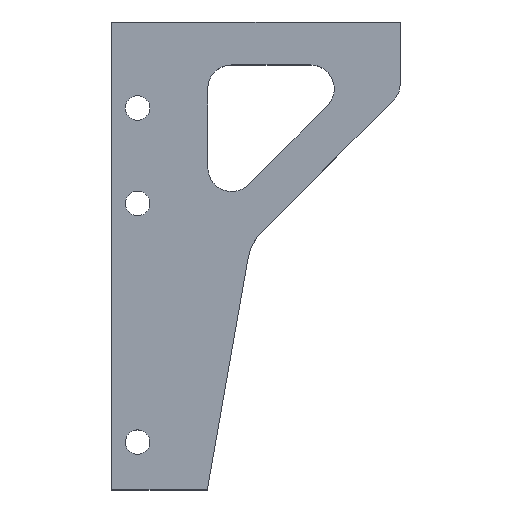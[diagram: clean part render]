
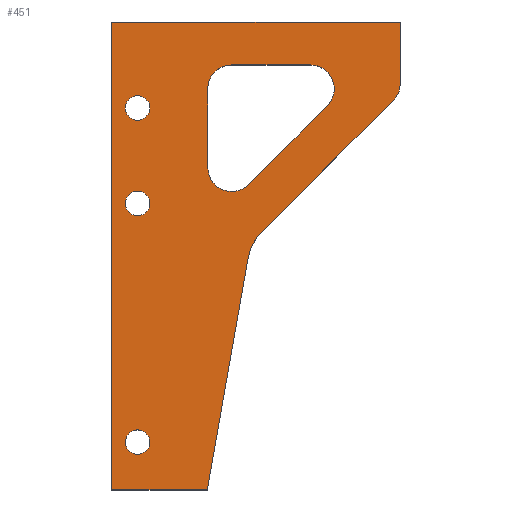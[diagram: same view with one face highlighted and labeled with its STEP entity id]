
A CAD part, top view. The second image highlights one B-rep face of the part: STEP entity #451.
In plain terms, the highlighted planar face has unit normal (0, 0, 1).
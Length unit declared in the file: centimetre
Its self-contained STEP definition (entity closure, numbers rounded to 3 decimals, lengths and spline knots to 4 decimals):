
#51=PLANE('',#495);
#56=VECTOR('',#507,1.);
#66=VECTOR('',#541,1.);
#71=VECTOR('',#555,1.);
#74=VECTOR('',#563,1.);
#76=VECTOR('',#570,1.);
#79=VECTOR('',#596,1.);
#80=VECTOR('',#598,1.);
#81=VECTOR('',#600,1.);
#83=VECTOR('',#603,1.);
#88=LINE('',#619,#56);
#98=LINE('',#668,#66);
#103=LINE('',#686,#71);
#106=LINE('',#694,#74);
#108=LINE('',#700,#76);
#111=LINE('',#722,#79);
#112=LINE('',#724,#80);
#113=LINE('',#726,#81);
#115=LINE('',#730,#83);
#116=VERTEX_POINT('',#607);
#117=VERTEX_POINT('',#608);
#121=VERTEX_POINT('',#618);
#141=VERTEX_POINT('',#667);
#142=VERTEX_POINT('',#669);
#144=VERTEX_POINT('',#679);
#145=VERTEX_POINT('',#681);
#146=VERTEX_POINT('',#685);
#147=VERTEX_POINT('',#689);
#148=VERTEX_POINT('',#691);
#149=VERTEX_POINT('',#695);
#152=VERTEX_POINT('',#708);
#153=VERTEX_POINT('',#711);
#154=VERTEX_POINT('',#714);
#155=VERTEX_POINT('',#717);
#156=VERTEX_POINT('',#719);
#157=VERTEX_POINT('',#727);
#158=CIRCLE('',#453,0.635);
#170=CIRCLE('',#472,0.635);
#171=CIRCLE('',#475,0.635);
#172=CIRCLE('',#478,0.635);
#174=CIRCLE('',#484,0.3264);
#175=CIRCLE('',#486,0.3264);
#176=CIRCLE('',#488,0.3264);
#177=CIRCLE('',#490,1.27);
#178=EDGE_CURVE('',#116,#117,#158,.T.);
#184=EDGE_CURVE('',#121,#116,#88,.T.);
#208=EDGE_CURVE('',#141,#142,#98,.T.);
#213=EDGE_CURVE('',#144,#145,#170,.T.);
#216=EDGE_CURVE('',#144,#146,#103,.T.);
#218=EDGE_CURVE('',#147,#148,#171,.T.);
#220=EDGE_CURVE('',#149,#148,#106,.T.);
#222=EDGE_CURVE('',#149,#146,#172,.T.);
#223=EDGE_CURVE('',#147,#145,#108,.T.);
#226=EDGE_CURVE('',#152,#152,#174,.T.);
#227=EDGE_CURVE('',#153,#153,#175,.T.);
#228=EDGE_CURVE('',#154,#154,#176,.T.);
#230=EDGE_CURVE('',#155,#156,#177,.T.);
#232=EDGE_CURVE('',#117,#155,#111,.T.);
#233=EDGE_CURVE('',#142,#121,#112,.T.);
#234=EDGE_CURVE('',#156,#157,#113,.T.);
#236=EDGE_CURVE('',#157,#141,#115,.T.);
#338=ORIENTED_EDGE('',*,*,#178,.F.);
#339=ORIENTED_EDGE('',*,*,#184,.F.);
#340=ORIENTED_EDGE('',*,*,#233,.F.);
#341=ORIENTED_EDGE('',*,*,#208,.F.);
#342=ORIENTED_EDGE('',*,*,#236,.F.);
#343=ORIENTED_EDGE('',*,*,#234,.F.);
#344=ORIENTED_EDGE('',*,*,#230,.F.);
#345=ORIENTED_EDGE('',*,*,#232,.F.);
#346=ORIENTED_EDGE('',*,*,#220,.T.);
#347=ORIENTED_EDGE('',*,*,#218,.F.);
#348=ORIENTED_EDGE('',*,*,#223,.T.);
#349=ORIENTED_EDGE('',*,*,#213,.F.);
#350=ORIENTED_EDGE('',*,*,#216,.T.);
#351=ORIENTED_EDGE('',*,*,#222,.F.);
#352=ORIENTED_EDGE('',*,*,#226,.T.);
#353=ORIENTED_EDGE('',*,*,#227,.T.);
#354=ORIENTED_EDGE('',*,*,#228,.T.);
#387=EDGE_LOOP('',(#338,#339,#340,#341,#342,#343,#344,#345));
#388=EDGE_LOOP('',(#346,#347,#348,#349,#350,#351));
#389=EDGE_LOOP('',(#352));
#390=EDGE_LOOP('',(#353));
#391=EDGE_LOOP('',(#354));
#424=FACE_BOUND('',#387,.T.);
#425=FACE_BOUND('',#388,.T.);
#426=FACE_BOUND('',#389,.T.);
#427=FACE_BOUND('',#390,.T.);
#428=FACE_BOUND('',#391,.T.);
#451=ADVANCED_FACE('',(#424,#425,#426,#427,#428),#51,.T.);
#453=AXIS2_PLACEMENT_3D('',#606,#498,#499);
#472=AXIS2_PLACEMENT_3D('',#680,#550,#551);
#475=AXIS2_PLACEMENT_3D('',#690,#559,#560);
#478=AXIS2_PLACEMENT_3D('',#698,#567,#568);
#484=AXIS2_PLACEMENT_3D('',#707,#579,#580);
#486=AXIS2_PLACEMENT_3D('',#710,#583,#584);
#488=AXIS2_PLACEMENT_3D('',#713,#587,#588);
#490=AXIS2_PLACEMENT_3D('',#718,#592,#593);
#495=AXIS2_PLACEMENT_3D('',#731,#604,$);
#498=DIRECTION('',(0.,0.,-1.));
#499=DIRECTION('',(0.587,-0.243,0.));
#507=DIRECTION('',(0.,-1.,0.));
#541=DIRECTION('',(0.,1.,0.));
#550=DIRECTION('',(0.,0.,1.));
#551=DIRECTION('',(-0.243,-0.587,0.));
#555=DIRECTION('',(0.,1.,0.));
#559=DIRECTION('',(0.,0.,1.));
#560=DIRECTION('',(0.,0.635,0.));
#563=DIRECTION('',(1.,0.,0.));
#567=DIRECTION('',(0.,0.,1.));
#568=DIRECTION('',(-0.449,0.449,0.));
#570=DIRECTION('',(-0.707,-0.707,0.));
#579=DIRECTION('',(0.,0.,-1.));
#580=DIRECTION('',(0.,0.326,0.));
#583=DIRECTION('',(0.,0.,-1.));
#584=DIRECTION('',(0.,0.326,0.));
#587=DIRECTION('',(0.,0.,-1.));
#588=DIRECTION('',(0.,0.326,0.));
#592=DIRECTION('',(0.,0.,1.));
#593=DIRECTION('',(-1.127,0.586,0.));
#596=DIRECTION('',(-0.707,-0.707,0.));
#598=DIRECTION('',(1.,0.,0.));
#600=DIRECTION('',(-0.174,-0.985,0.));
#603=DIRECTION('',(-1.,0.,0.));
#604=DIRECTION('',(0.,0.,1.));
#606=CARTESIAN_POINT('',(7.0358,-1.642,1.27));
#607=CARTESIAN_POINT('',(7.6708,-1.642,1.27));
#608=CARTESIAN_POINT('',(7.4848,-2.091,1.27));
#618=CARTESIAN_POINT('',(7.6708,0.,1.27));
#619=CARTESIAN_POINT('',(7.6708,-1.905,1.27));
#667=CARTESIAN_POINT('',(0.,-12.446,1.27));
#668=CARTESIAN_POINT('',(0.,0.,1.27));
#669=CARTESIAN_POINT('',(0.,0.,1.27));
#679=CARTESIAN_POINT('',(2.5527,-3.8736,1.27));
#680=CARTESIAN_POINT('',(3.1877,-3.8736,1.27));
#681=CARTESIAN_POINT('',(3.6367,-4.3226,1.27));
#685=CARTESIAN_POINT('',(2.5527,-1.778,1.27));
#686=CARTESIAN_POINT('',(2.5527,-4.2677,1.27));
#689=CARTESIAN_POINT('',(5.7323,-2.227,1.27));
#690=CARTESIAN_POINT('',(5.2833,-1.778,1.27));
#691=CARTESIAN_POINT('',(5.2833,-1.143,1.27));
#694=CARTESIAN_POINT('',(3.5952,-1.143,1.27));
#695=CARTESIAN_POINT('',(3.1877,-1.143,1.27));
#698=CARTESIAN_POINT('',(3.1877,-1.778,1.27));
#700=CARTESIAN_POINT('',(3.5915,-4.3678,1.27));
#707=CARTESIAN_POINT('',(0.6858,-11.176,1.27));
#708=CARTESIAN_POINT('',(0.6858,-10.8496,1.27));
#710=CARTESIAN_POINT('',(0.6858,-4.826,1.27));
#711=CARTESIAN_POINT('',(0.6858,-4.4996,1.27));
#713=CARTESIAN_POINT('',(0.6858,-2.286,1.27));
#714=CARTESIAN_POINT('',(0.6858,-1.9596,1.27));
#717=CARTESIAN_POINT('',(3.9813,-5.5945,1.27));
#718=CARTESIAN_POINT('',(4.8794,-6.4925,1.27));
#719=CARTESIAN_POINT('',(3.6286,-6.272,1.27));
#722=CARTESIAN_POINT('',(3.6982,-5.8776,1.27));
#724=CARTESIAN_POINT('',(7.6708,0.,1.27));
#726=CARTESIAN_POINT('',(2.54,-12.446,1.27));
#727=CARTESIAN_POINT('',(2.54,-12.446,1.27));
#730=CARTESIAN_POINT('',(0.,-12.446,1.27));
#731=CARTESIAN_POINT('',(2.7137,-5.2605,1.27));
